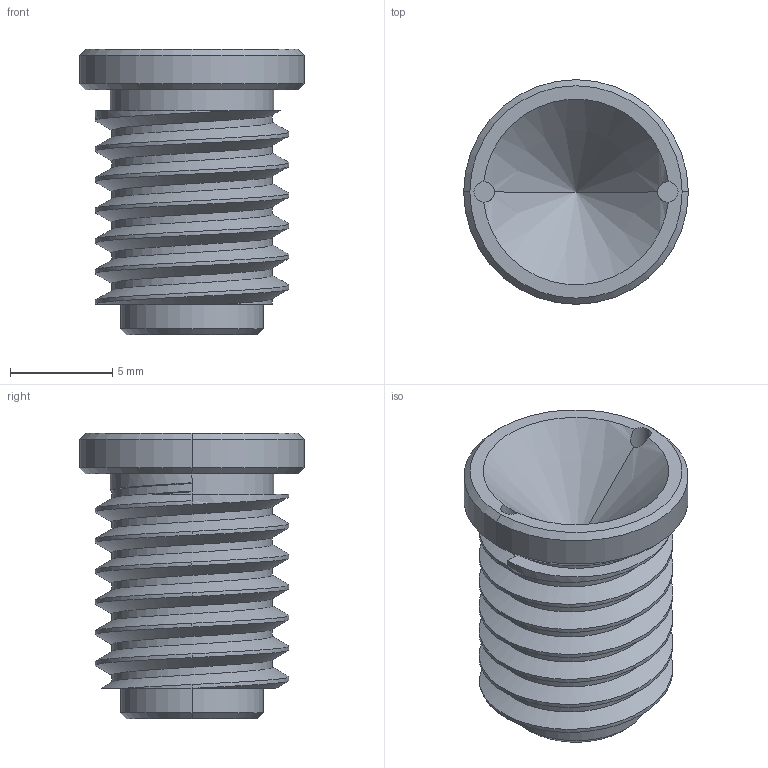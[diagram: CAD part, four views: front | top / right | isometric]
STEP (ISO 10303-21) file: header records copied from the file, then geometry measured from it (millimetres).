
FILE_DESCRIPTION (( 'STEP AP214' ), '1' );
FILE_NAME ('沺翐-M10.STEP', '2025-06-21T05:08:47', ( '' ), ( '' ), 'SwSTEP 2.0', 'SolidWorks 2024', '' );
FILE_SCHEMA (( 'AUTOMOTIVE_DESIGN' ));
Length unit declared in the file: millimetre
Products named in the file (1): 铁柱-M10
Bounding box: 11 x 11 x 14 mm (x, y, z)
Volume: 745.7 mm3; surface area: 771.9 mm2
Topology: 1 solids, 1 shells, 45 faces, 112 edges, 70 vertices
Faces by surface type: cylinder 25, plane 9, cone 8, bspline 3
Entity records: 3072 total; most frequent: CARTESIAN_POINT 2077, ORIENTED_EDGE 220, DIRECTION 183, EDGE_CURVE 110, AXIS2_PLACEMENT_3D 74, VERTEX_POINT 70, EDGE_LOOP 48, ADVANCED_FACE 45
